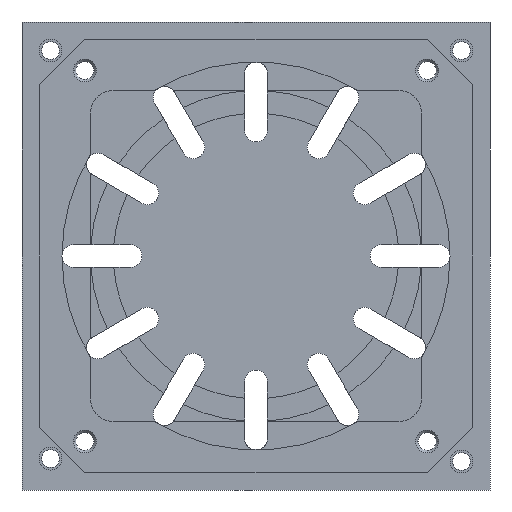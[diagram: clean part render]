
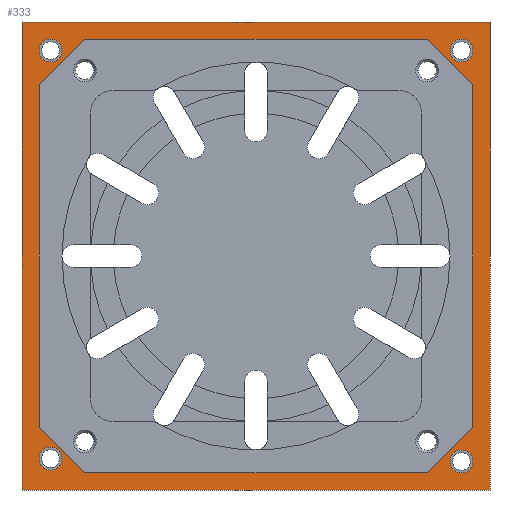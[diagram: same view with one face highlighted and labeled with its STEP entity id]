
A CAD part, left-side view. The second image highlights one B-rep face of the part: STEP entity #333.
In plain terms, the highlighted planar face has unit normal (-1, 0, 0).
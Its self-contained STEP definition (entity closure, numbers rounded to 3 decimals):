
#152=FACE_BOUND('',#783,.F.);
#153=FACE_BOUND('',#784,.F.);
#154=FACE_BOUND('',#785,.F.);
#155=FACE_BOUND('',#786,.F.);
#156=FACE_BOUND('',#787,.F.);
#333=ADVANCED_FACE('',(#152,#153,#154,#155,#156,#550),#2267,.T.);
#550=FACE_OUTER_BOUND('',#788,.F.);
#783=EDGE_LOOP('',(#1973,#1974,#1975,#1976,#1977,#1978,#1979,#1980));
#784=EDGE_LOOP('',(#1981,#1982));
#785=EDGE_LOOP('',(#1983,#1984));
#786=EDGE_LOOP('',(#1985,#1986));
#787=EDGE_LOOP('',(#1987,#1988));
#788=EDGE_LOOP('',(#1989,#1990,#1991,#1992));
#1973=ORIENTED_EDGE('',*,*,#3715,.F.);
#1974=ORIENTED_EDGE('',*,*,#3712,.T.);
#1975=ORIENTED_EDGE('',*,*,#3716,.F.);
#1976=ORIENTED_EDGE('',*,*,#3713,.T.);
#1977=ORIENTED_EDGE('',*,*,#3717,.F.);
#1978=ORIENTED_EDGE('',*,*,#3711,.T.);
#1979=ORIENTED_EDGE('',*,*,#3714,.F.);
#1980=ORIENTED_EDGE('',*,*,#3710,.T.);
#1981=ORIENTED_EDGE('',*,*,#3703,.F.);
#1982=ORIENTED_EDGE('',*,*,#3702,.F.);
#1983=ORIENTED_EDGE('',*,*,#3705,.F.);
#1984=ORIENTED_EDGE('',*,*,#3704,.F.);
#1985=ORIENTED_EDGE('',*,*,#3707,.F.);
#1986=ORIENTED_EDGE('',*,*,#3706,.F.);
#1987=ORIENTED_EDGE('',*,*,#3709,.F.);
#1988=ORIENTED_EDGE('',*,*,#3708,.F.);
#1989=ORIENTED_EDGE('',*,*,#3155,.F.);
#1990=ORIENTED_EDGE('',*,*,#3154,.F.);
#1991=ORIENTED_EDGE('',*,*,#3153,.F.);
#1992=ORIENTED_EDGE('',*,*,#3152,.F.);
#2267=PLANE('',#4991);
#2292=LINE('',#6884,#2710);
#2293=LINE('',#6885,#2711);
#2294=LINE('',#6886,#2712);
#2295=LINE('',#6887,#2713);
#2654=LINE('',#7442,#3072);
#2655=LINE('',#7443,#3073);
#2656=LINE('',#7444,#3074);
#2657=LINE('',#7445,#3075);
#2658=LINE('',#7446,#3076);
#2659=LINE('',#7447,#3077);
#2660=LINE('',#7448,#3078);
#2661=LINE('',#7449,#3079);
#2710=VECTOR('',#5102,41.);
#2711=VECTOR('',#5103,41.);
#2712=VECTOR('',#5104,41.);
#2713=VECTOR('',#5105,41.);
#3072=VECTOR('',#5856,5.657);
#3073=VECTOR('',#5857,5.657);
#3074=VECTOR('',#5858,5.657);
#3075=VECTOR('',#5859,5.657);
#3076=VECTOR('',#5860,30.);
#3077=VECTOR('',#5861,30.);
#3078=VECTOR('',#5862,30.);
#3079=VECTOR('',#5863,30.);
#3152=EDGE_CURVE('',#4453,#4452,#2292,.T.);
#3153=EDGE_CURVE('',#4452,#4451,#2293,.T.);
#3154=EDGE_CURVE('',#4451,#4450,#2294,.T.);
#3155=EDGE_CURVE('',#4450,#4453,#2295,.T.);
#3702=EDGE_CURVE('',#4089,#4088,#4002,.T.);
#3703=EDGE_CURVE('',#4088,#4089,#4003,.T.);
#3704=EDGE_CURVE('',#4087,#4086,#4004,.T.);
#3705=EDGE_CURVE('',#4086,#4087,#4005,.T.);
#3706=EDGE_CURVE('',#4085,#4084,#4006,.T.);
#3707=EDGE_CURVE('',#4084,#4085,#4007,.T.);
#3708=EDGE_CURVE('',#4083,#4082,#4008,.T.);
#3709=EDGE_CURVE('',#4082,#4083,#4009,.T.);
#3710=EDGE_CURVE('',#4081,#4080,#2654,.T.);
#3711=EDGE_CURVE('',#4079,#4078,#2655,.T.);
#3712=EDGE_CURVE('',#4077,#4076,#2656,.T.);
#3713=EDGE_CURVE('',#4075,#4074,#2657,.T.);
#3714=EDGE_CURVE('',#4081,#4078,#2658,.T.);
#3715=EDGE_CURVE('',#4077,#4080,#2659,.T.);
#3716=EDGE_CURVE('',#4075,#4076,#2660,.T.);
#3717=EDGE_CURVE('',#4079,#4074,#2661,.T.);
#4002=CIRCLE('',#4783,1.);
#4003=CIRCLE('',#4784,1.);
#4004=CIRCLE('',#4785,1.);
#4005=CIRCLE('',#4786,1.);
#4006=CIRCLE('',#4787,1.);
#4007=CIRCLE('',#4788,1.);
#4008=CIRCLE('',#4789,1.);
#4009=CIRCLE('',#4790,1.);
#4074=VERTEX_POINT('',#6440);
#4075=VERTEX_POINT('',#6441);
#4076=VERTEX_POINT('',#6442);
#4077=VERTEX_POINT('',#6443);
#4078=VERTEX_POINT('',#6444);
#4079=VERTEX_POINT('',#6445);
#4080=VERTEX_POINT('',#6446);
#4081=VERTEX_POINT('',#6447);
#4082=VERTEX_POINT('',#6448);
#4083=VERTEX_POINT('',#6449);
#4084=VERTEX_POINT('',#6450);
#4085=VERTEX_POINT('',#6451);
#4086=VERTEX_POINT('',#6452);
#4087=VERTEX_POINT('',#6453);
#4088=VERTEX_POINT('',#6454);
#4089=VERTEX_POINT('',#6455);
#4450=VERTEX_POINT('',#6816);
#4451=VERTEX_POINT('',#6817);
#4452=VERTEX_POINT('',#6818);
#4453=VERTEX_POINT('',#6819);
#4783=AXIS2_PLACEMENT_3D('',#7434,#5840,#5841);
#4784=AXIS2_PLACEMENT_3D('',#7435,#5842,#5843);
#4785=AXIS2_PLACEMENT_3D('',#7436,#5844,#5845);
#4786=AXIS2_PLACEMENT_3D('',#7437,#5846,#5847);
#4787=AXIS2_PLACEMENT_3D('',#7438,#5848,#5849);
#4788=AXIS2_PLACEMENT_3D('',#7439,#5850,#5851);
#4789=AXIS2_PLACEMENT_3D('',#7440,#5852,#5853);
#4790=AXIS2_PLACEMENT_3D('',#7441,#5854,#5855);
#4991=AXIS2_PLACEMENT_3D('',#7690,#6304,#6305);
#5102=DIRECTION('',(0.,0.,-1.));
#5103=DIRECTION('',(0.,-1.,0.));
#5104=DIRECTION('',(0.,0.,1.));
#5105=DIRECTION('',(0.,1.,0.));
#5840=DIRECTION('',(1.,0.,0.));
#5841=DIRECTION('',(0.,1.,0.));
#5842=DIRECTION('',(1.,0.,0.));
#5843=DIRECTION('',(0.,-1.,0.));
#5844=DIRECTION('',(1.,0.,0.));
#5845=DIRECTION('',(0.,1.,0.));
#5846=DIRECTION('',(1.,0.,0.));
#5847=DIRECTION('',(0.,-1.,0.));
#5848=DIRECTION('',(1.,0.,0.));
#5849=DIRECTION('',(0.,1.,0.));
#5850=DIRECTION('',(1.,0.,0.));
#5851=DIRECTION('',(0.,-1.,0.));
#5852=DIRECTION('',(1.,0.,0.));
#5853=DIRECTION('',(0.,1.,0.));
#5854=DIRECTION('',(1.,0.,0.));
#5855=DIRECTION('',(0.,-1.,0.));
#5856=DIRECTION('',(0.,-0.707,-0.707));
#5857=DIRECTION('',(0.,0.707,-0.707));
#5858=DIRECTION('',(0.,-0.707,0.707));
#5859=DIRECTION('',(0.,0.707,0.707));
#5860=DIRECTION('',(0.,0.,1.));
#5861=DIRECTION('',(0.,1.,0.));
#5862=DIRECTION('',(0.,0.,-1.));
#5863=DIRECTION('',(0.,-1.,0.));
#6304=DIRECTION('',(-1.,0.,0.));
#6305=DIRECTION('',(0.,0.,-1.));
#6440=CARTESIAN_POINT('',(845.867,-75.179,522.167));
#6441=CARTESIAN_POINT('',(845.867,-79.179,518.167));
#6442=CARTESIAN_POINT('',(845.867,-79.179,488.167));
#6443=CARTESIAN_POINT('',(845.867,-75.179,484.167));
#6444=CARTESIAN_POINT('',(845.867,-41.179,518.167));
#6445=CARTESIAN_POINT('',(845.867,-45.179,522.167));
#6446=CARTESIAN_POINT('',(845.867,-45.179,484.167));
#6447=CARTESIAN_POINT('',(845.867,-41.179,488.167));
#6448=CARTESIAN_POINT('',(845.867,-43.179,521.167));
#6449=CARTESIAN_POINT('',(845.867,-41.179,521.167));
#6450=CARTESIAN_POINT('',(845.867,-79.179,521.167));
#6451=CARTESIAN_POINT('',(845.867,-77.179,521.167));
#6452=CARTESIAN_POINT('',(845.867,-79.179,485.167));
#6453=CARTESIAN_POINT('',(845.867,-77.179,485.167));
#6454=CARTESIAN_POINT('',(845.867,-43.179,485.417));
#6455=CARTESIAN_POINT('',(845.867,-41.179,485.417));
#6816=CARTESIAN_POINT('',(845.867,-80.679,523.667));
#6817=CARTESIAN_POINT('',(845.867,-80.679,482.667));
#6818=CARTESIAN_POINT('',(845.867,-39.679,482.667));
#6819=CARTESIAN_POINT('',(845.867,-39.679,523.667));
#6884=CARTESIAN_POINT('',(845.867,-39.679,523.667));
#6885=CARTESIAN_POINT('',(845.867,-39.679,482.667));
#6886=CARTESIAN_POINT('',(845.867,-80.679,482.667));
#6887=CARTESIAN_POINT('',(845.867,-80.679,523.667));
#7434=CARTESIAN_POINT('',(845.867,-42.179,485.417));
#7435=CARTESIAN_POINT('',(845.867,-42.179,485.417));
#7436=CARTESIAN_POINT('',(845.867,-78.179,485.167));
#7437=CARTESIAN_POINT('',(845.867,-78.179,485.167));
#7438=CARTESIAN_POINT('',(845.867,-78.179,521.167));
#7439=CARTESIAN_POINT('',(845.867,-78.179,521.167));
#7440=CARTESIAN_POINT('',(845.867,-42.179,521.167));
#7441=CARTESIAN_POINT('',(845.867,-42.179,521.167));
#7442=CARTESIAN_POINT('',(845.867,-41.179,488.167));
#7443=CARTESIAN_POINT('',(845.867,-45.179,522.167));
#7444=CARTESIAN_POINT('',(845.867,-75.179,484.167));
#7445=CARTESIAN_POINT('',(845.867,-79.179,518.167));
#7446=CARTESIAN_POINT('',(845.867,-41.179,488.167));
#7447=CARTESIAN_POINT('',(845.867,-75.179,484.167));
#7448=CARTESIAN_POINT('',(845.867,-79.179,518.167));
#7449=CARTESIAN_POINT('',(845.867,-45.179,522.167));
#7690=CARTESIAN_POINT('',(845.867,-81.089,524.077));
